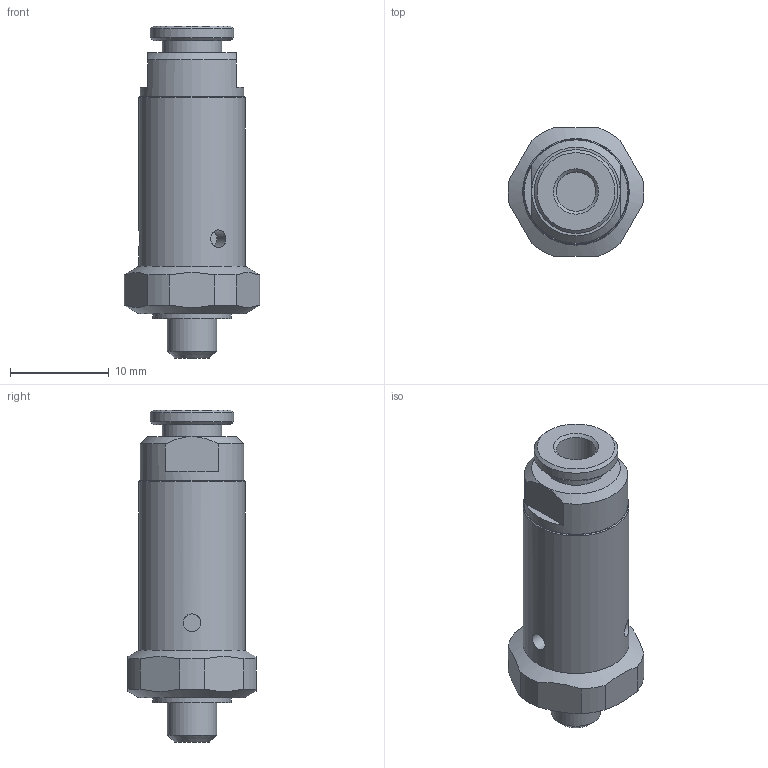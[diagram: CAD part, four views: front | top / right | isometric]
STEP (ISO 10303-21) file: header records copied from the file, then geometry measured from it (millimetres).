
FILE_DESCRIPTION(/* description */ ('VALVOLA S.RAPIDO IN Tubo d.4 OUT M5'),/* implementation_level */ '2;1');
FILE_NAME(/* name */ 'I:\Area Tecnica\Disegni\VARIE-3D\Componenti\600\6_02_##_##_L\6_02_04_M5_L.stp',/* time_stamp */ '2017-01-20T13:59:02+01:00',/* author */ ('maniean1'),/* organization */ ('Pneumax S.p.A.'),/* preprocessor_version */ 'ST-DEVELOPER v15.2',/* originating_system */ 'Autodesk Inventor 2014',/* authorisation */ '');
FILE_SCHEMA (('AUTOMOTIVE_DESIGN { 1 0 10303 214 3 1 1 }'));
Length unit declared in the file: millimetre
Products named in the file (1): 6_02_04_M5_L
Bounding box: 13.77 x 13 x 33.7 mm (x, y, z)
Volume: 2625.9 mm3; surface area: 1520.9 mm2
Topology: 1 solids, 1 shells, 46 faces, 97 edges, 62 vertices
Faces by surface type: plane 21, cylinder 16, cone 9
Full cylindrical faces by diameter (mm): 1.8 x3, 4 x1, 5 x1, 6 x1, 8 x1, 8.5 x1, 10.5 x1, 10.8 x1
Entity records: 1226 total; most frequent: CARTESIAN_POINT 314, DIRECTION 192, ORIENTED_EDGE 154, AXIS2_PLACEMENT_3D 87, EDGE_CURVE 77, EDGE_LOOP 72, VERTEX_POINT 59, ADVANCED_FACE 46
